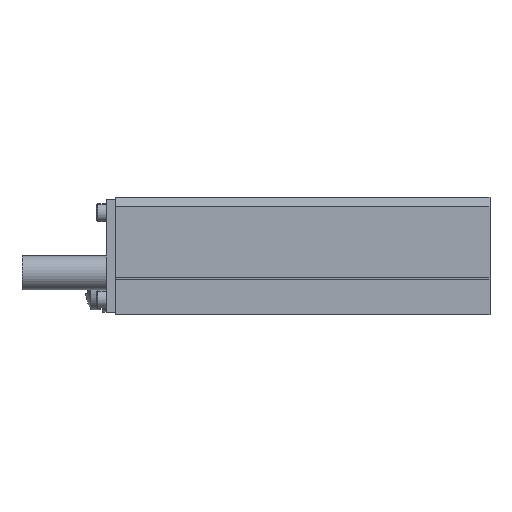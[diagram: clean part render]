
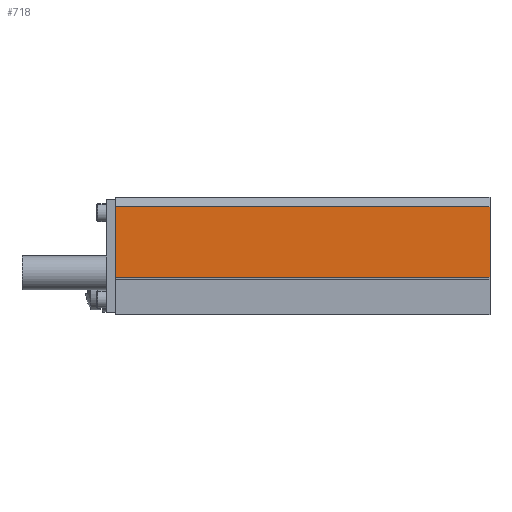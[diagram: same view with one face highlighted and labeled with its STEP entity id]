
A CAD part, front view. The second image highlights one B-rep face of the part: STEP entity #718.
In plain terms, the highlighted planar face has unit normal (0, -1, 0).
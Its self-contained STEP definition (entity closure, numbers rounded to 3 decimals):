
#38 = CARTESIAN_POINT ( 'NONE',  ( 40., -40., 8. ) ) ;
#202 = CARTESIAN_POINT ( 'NONE',  ( -40., -40., 8. ) ) ;
#324 = DIRECTION ( 'NONE',  ( 0., 0., 1. ) ) ;
#718 = ADVANCED_FACE ( 'NONE', ( #3441 ), #1706, .T. ) ;
#1325 = VERTEX_POINT ( 'NONE', #7000 ) ;
#1706 = PLANE ( 'NONE',  #3141 ) ;
#1742 = DIRECTION ( 'NONE',  ( 1., 0., 0. ) ) ;
#1896 = VERTEX_POINT ( 'NONE', #4186 ) ;
#2160 = DIRECTION ( 'NONE',  ( -1., 0., 0. ) ) ;
#2189 = CARTESIAN_POINT ( 'NONE',  ( -40., -40., 23. ) ) ;
#2379 = EDGE_LOOP ( 'NONE', ( #4686, #9381, #12040, #4170 ) ) ;
#2516 = VECTOR ( 'NONE', #5669, 1000. ) ;
#2743 = LINE ( 'NONE', #5416, #2516 ) ;
#3141 = AXIS2_PLACEMENT_3D ( 'NONE', #6716, #3885, #1742 ) ;
#3441 = FACE_OUTER_BOUND ( 'NONE', #2379, .T. ) ;
#3885 = DIRECTION ( 'NONE',  ( 0., -1., 0. ) ) ;
#4152 = LINE ( 'NONE', #38, #4334 ) ;
#4170 = ORIENTED_EDGE ( 'NONE', *, *, #11116, .T. ) ;
#4186 = CARTESIAN_POINT ( 'NONE',  ( 40., -40., 23. ) ) ;
#4334 = VECTOR ( 'NONE', #12439, 1000. ) ;
#4686 = ORIENTED_EDGE ( 'NONE', *, *, #10955, .T. ) ;
#5416 = CARTESIAN_POINT ( 'NONE',  ( 40., -40., 8. ) ) ;
#5669 = DIRECTION ( 'NONE',  ( 1., 0., 0. ) ) ;
#6262 = CARTESIAN_POINT ( 'NONE',  ( -40., -40., 23. ) ) ;
#6267 = VECTOR ( 'NONE', #324, 1000. ) ;
#6392 = LINE ( 'NONE', #202, #6267 ) ;
#6716 = CARTESIAN_POINT ( 'NONE',  ( 40., -40., 8. ) ) ;
#7000 = CARTESIAN_POINT ( 'NONE',  ( 40., -40., 8. ) ) ;
#7049 = EDGE_CURVE ( 'NONE', #7083, #9988, #6392, .T. ) ;
#7083 = VERTEX_POINT ( 'NONE', #12469 ) ;
#9381 = ORIENTED_EDGE ( 'NONE', *, *, #10408, .T. ) ;
#9988 = VERTEX_POINT ( 'NONE', #6262 ) ;
#10408 = EDGE_CURVE ( 'NONE', #1896, #9988, #12090, .T. ) ;
#10955 = EDGE_CURVE ( 'NONE', #1325, #1896, #4152, .T. ) ;
#11116 = EDGE_CURVE ( 'NONE', #7083, #1325, #2743, .T. ) ;
#11819 = VECTOR ( 'NONE', #2160, 1000. ) ;
#12040 = ORIENTED_EDGE ( 'NONE', *, *, #7049, .F. ) ;
#12090 = LINE ( 'NONE', #2189, #11819 ) ;
#12439 = DIRECTION ( 'NONE',  ( 0., 0., 1. ) ) ;
#12469 = CARTESIAN_POINT ( 'NONE',  ( -40., -40., 8. ) ) ;
